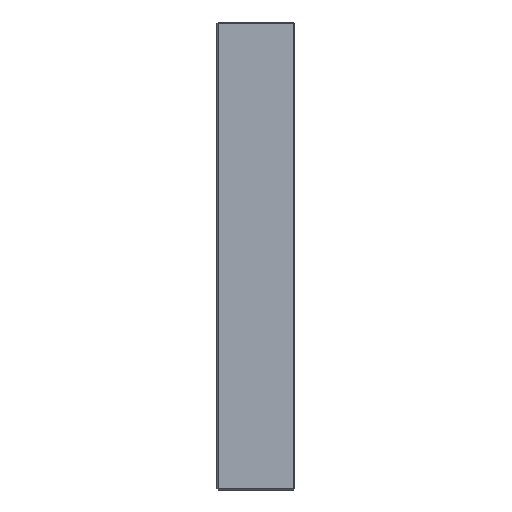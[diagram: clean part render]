
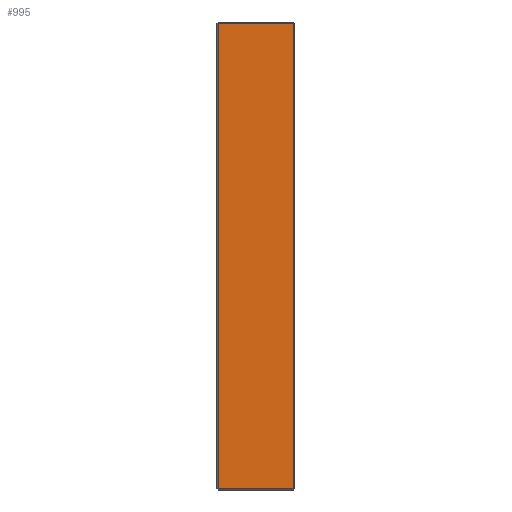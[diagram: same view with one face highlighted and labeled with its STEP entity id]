
A CAD part, left-side view. The second image highlights one B-rep face of the part: STEP entity #995.
In plain terms, the highlighted planar face has unit normal (-1, 0, 0).
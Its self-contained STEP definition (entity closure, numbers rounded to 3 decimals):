
#22 = VERTEX_POINT ( 'NONE', #839 ) ;
#56 = CARTESIAN_POINT ( 'NONE',  ( -198., 66., -197. ) ) ;
#200 = DIRECTION ( 'NONE',  ( 0., 0., 1. ) ) ;
#386 = FACE_OUTER_BOUND ( 'NONE', #1910, .T. ) ;
#453 = DIRECTION ( 'NONE',  ( 0., 0., -1. ) ) ;
#511 = VECTOR ( 'NONE', #200, 1000. ) ;
#552 = VERTEX_POINT ( 'NONE', #1233 ) ;
#579 = LINE ( 'NONE', #613, #511 ) ;
#613 = CARTESIAN_POINT ( 'NONE',  ( -198., 1., 198. ) ) ;
#624 = VECTOR ( 'NONE', #1225, 1000. ) ;
#677 = LINE ( 'NONE', #56, #624 ) ;
#702 = CARTESIAN_POINT ( 'NONE',  ( -198., 66., 197. ) ) ;
#765 = DIRECTION ( 'NONE',  ( 0., 0., -1. ) ) ;
#789 = DIRECTION ( 'NONE',  ( 0., 1., 0. ) ) ;
#839 = CARTESIAN_POINT ( 'NONE',  ( -198., 65., 197. ) ) ;
#875 = VECTOR ( 'NONE', #453, 1000. ) ;
#954 = LINE ( 'NONE', #1003, #875 ) ;
#995 = ADVANCED_FACE ( 'NONE', ( #386 ), #1574, .F. ) ;
#1003 = CARTESIAN_POINT ( 'NONE',  ( -198., 65., 198. ) ) ;
#1225 = DIRECTION ( 'NONE',  ( 0., -1., 0. ) ) ;
#1233 = CARTESIAN_POINT ( 'NONE',  ( -198., 65., -197. ) ) ;
#1369 = VERTEX_POINT ( 'NONE', #1629 ) ;
#1429 = ORIENTED_EDGE ( 'NONE', *, *, #1857, .T. ) ;
#1511 = VECTOR ( 'NONE', #789, 1000. ) ;
#1513 = LINE ( 'NONE', #702, #1511 ) ;
#1564 = DIRECTION ( 'NONE',  ( 1., 0., 0. ) ) ;
#1568 = AXIS2_PLACEMENT_3D ( 'NONE', #1940, #1564, #765 ) ;
#1574 = PLANE ( 'NONE',  #1568 ) ;
#1588 = ORIENTED_EDGE ( 'NONE', *, *, #1692, .T. ) ;
#1600 = EDGE_CURVE ( 'NONE', #1369, #22, #1513, .T. ) ;
#1626 = ORIENTED_EDGE ( 'NONE', *, *, #1600, .T. ) ;
#1629 = CARTESIAN_POINT ( 'NONE',  ( -198., 1., 197. ) ) ;
#1642 = CARTESIAN_POINT ( 'NONE',  ( -198., 1., -197. ) ) ;
#1643 = VERTEX_POINT ( 'NONE', #1642 ) ;
#1692 = EDGE_CURVE ( 'NONE', #22, #552, #954, .T. ) ;
#1783 = EDGE_CURVE ( 'NONE', #552, #1643, #677, .T. ) ;
#1857 = EDGE_CURVE ( 'NONE', #1643, #1369, #579, .T. ) ;
#1865 = ORIENTED_EDGE ( 'NONE', *, *, #1783, .T. ) ;
#1910 = EDGE_LOOP ( 'NONE', ( #1626, #1588, #1865, #1429 ) ) ;
#1940 = CARTESIAN_POINT ( 'NONE',  ( -198., 66., 198. ) ) ;
